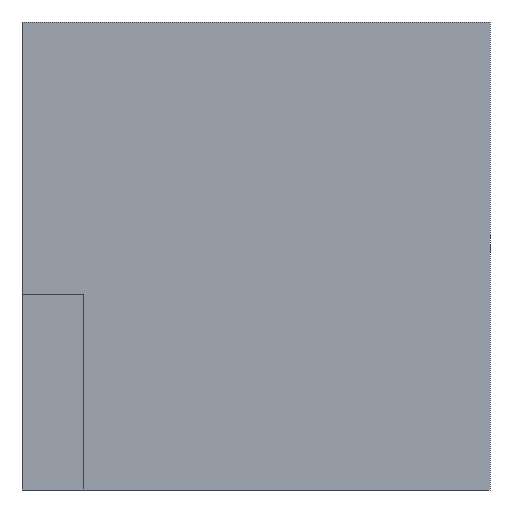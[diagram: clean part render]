
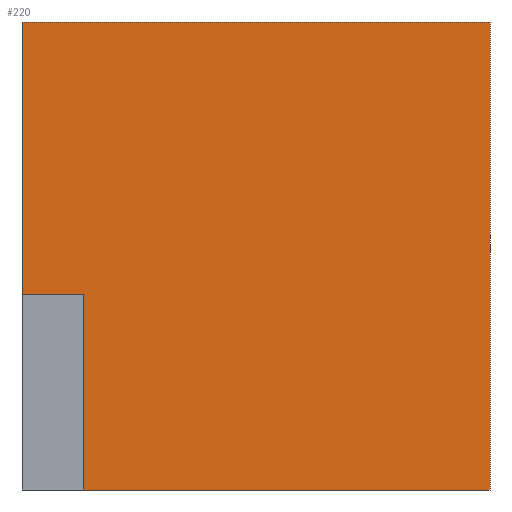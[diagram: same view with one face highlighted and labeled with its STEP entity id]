
A CAD part, front view. The second image highlights one B-rep face of the part: STEP entity #220.
In plain terms, the highlighted planar face has unit normal (0, -1, 0).
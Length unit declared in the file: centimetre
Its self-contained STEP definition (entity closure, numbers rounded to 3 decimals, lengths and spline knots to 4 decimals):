
#5 = CARTESIAN_POINT ( 'NONE',  ( 1000., 0., 1000. ) ) ;
#7 = DIRECTION ( 'NONE',  ( 0., 1., 0. ) ) ;
#16 = LINE ( 'NONE', #448, #92 ) ;
#22 = CARTESIAN_POINT ( 'NONE',  ( 0., 0., 0. ) ) ;
#26 = VERTEX_POINT ( 'NONE', #177 ) ;
#33 = CARTESIAN_POINT ( 'NONE',  ( 0., 0., 1000. ) ) ;
#51 = DIRECTION ( 'NONE',  ( 1., 0., 0. ) ) ;
#59 = EDGE_CURVE ( 'NONE', #337, #155, #205, .T. ) ;
#62 = VECTOR ( 'NONE', #403, 100. ) ;
#65 = VERTEX_POINT ( 'NONE', #279 ) ;
#76 = VECTOR ( 'NONE', #249, 100. ) ;
#83 = LINE ( 'NONE', #194, #62 ) ;
#92 = VECTOR ( 'NONE', #51, 100. ) ;
#100 = ORIENTED_EDGE ( 'NONE', *, *, #143, .F. ) ;
#104 = CARTESIAN_POINT ( 'NONE',  ( 0., 0., 417.0878 ) ) ;
#137 = PLANE ( 'NONE',  #261 ) ;
#139 = VECTOR ( 'NONE', #455, 100. ) ;
#143 = EDGE_CURVE ( 'NONE', #155, #26, #400, .T. ) ;
#146 = CARTESIAN_POINT ( 'NONE',  ( 0., 0., 1000. ) ) ;
#155 = VERTEX_POINT ( 'NONE', #217 ) ;
#156 = VECTOR ( 'NONE', #462, 100. ) ;
#163 = CARTESIAN_POINT ( 'NONE',  ( 131.2404, 0., 0. ) ) ;
#168 = EDGE_CURVE ( 'NONE', #237, #26, #436, .T. ) ;
#171 = DIRECTION ( 'NONE',  ( 0., 0., 1. ) ) ;
#177 = CARTESIAN_POINT ( 'NONE',  ( 0., 0., 417.0878 ) ) ;
#194 = CARTESIAN_POINT ( 'NONE',  ( 1000., 0., 1000. ) ) ;
#205 = LINE ( 'NONE', #163, #306 ) ;
#217 = CARTESIAN_POINT ( 'NONE',  ( 131.2404, 0., 417.0878 ) ) ;
#220 = ADVANCED_FACE ( 'NONE', ( #333 ), #137, .F. ) ;
#230 = ORIENTED_EDGE ( 'NONE', *, *, #252, .T. ) ;
#237 = VERTEX_POINT ( 'NONE', #33 ) ;
#249 = DIRECTION ( 'NONE',  ( 0., 0., -1. ) ) ;
#252 = EDGE_CURVE ( 'NONE', #337, #65, #272, .T. ) ;
#261 = AXIS2_PLACEMENT_3D ( 'NONE', #146, #7, #171 ) ;
#270 = ORIENTED_EDGE ( 'NONE', *, *, #433, .F. ) ;
#272 = LINE ( 'NONE', #22, #139 ) ;
#275 = ORIENTED_EDGE ( 'NONE', *, *, #168, .T. ) ;
#279 = CARTESIAN_POINT ( 'NONE',  ( 1000., 0., 0. ) ) ;
#306 = VECTOR ( 'NONE', #313, 100. ) ;
#313 = DIRECTION ( 'NONE',  ( 0., 0., 1. ) ) ;
#316 = EDGE_LOOP ( 'NONE', ( #275, #100, #459, #230, #270, #353 ) ) ;
#333 = FACE_OUTER_BOUND ( 'NONE', #316, .T. ) ;
#337 = VERTEX_POINT ( 'NONE', #383 ) ;
#352 = EDGE_CURVE ( 'NONE', #237, #431, #16, .T. ) ;
#353 = ORIENTED_EDGE ( 'NONE', *, *, #352, .F. ) ;
#359 = CARTESIAN_POINT ( 'NONE',  ( 0., 0., 1000. ) ) ;
#383 = CARTESIAN_POINT ( 'NONE',  ( 131.2404, 0., 0. ) ) ;
#400 = LINE ( 'NONE', #104, #156 ) ;
#403 = DIRECTION ( 'NONE',  ( 0., 0., -1. ) ) ;
#431 = VERTEX_POINT ( 'NONE', #5 ) ;
#433 = EDGE_CURVE ( 'NONE', #431, #65, #83, .T. ) ;
#436 = LINE ( 'NONE', #359, #76 ) ;
#448 = CARTESIAN_POINT ( 'NONE',  ( 0., 0., 1000. ) ) ;
#455 = DIRECTION ( 'NONE',  ( 1., 0., 0. ) ) ;
#459 = ORIENTED_EDGE ( 'NONE', *, *, #59, .F. ) ;
#462 = DIRECTION ( 'NONE',  ( -1., 0., 0. ) ) ;
